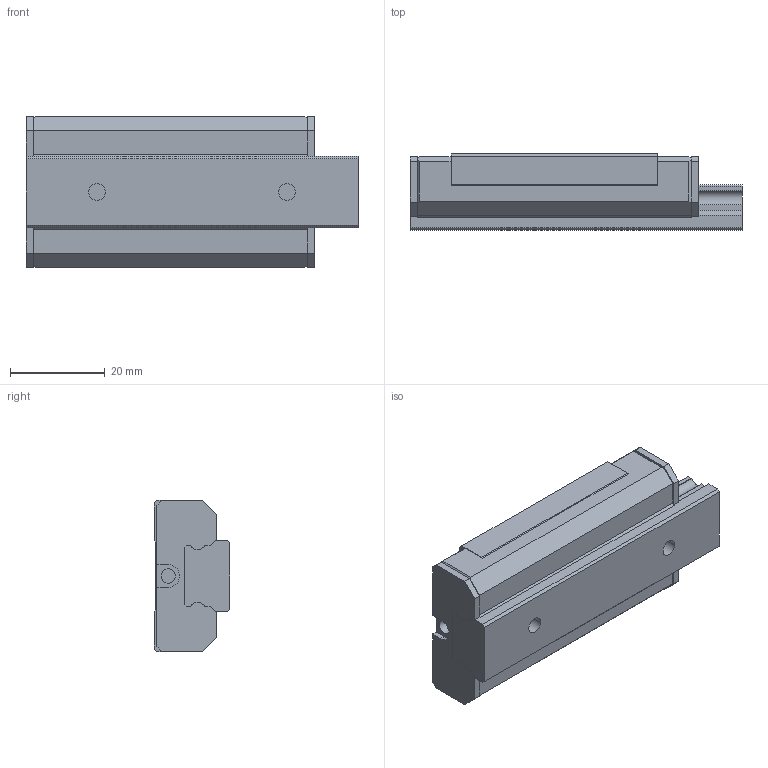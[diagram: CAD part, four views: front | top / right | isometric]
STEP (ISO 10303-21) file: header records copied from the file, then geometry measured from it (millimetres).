
FILE_DESCRIPTION(/* description */ ('STEP AP203'),/* implementation_level */ '2;1');
FILE_NAME(/* name */ 'SRS15NSS-70LM_G15_0_Without_grease_nipple_0_0_0_0_1',/* time_stamp */ '2024-05-17T09:13:22+02:00',/* author */ ('License CC BY-ND 4.0'),/* organization */ ('CADENAS'),/* preprocessor_version */ 'ST-DEVELOPER v19.3',/* originating_system */ 'PARTsolutions',/* authorisation */ ' ');
FILE_SCHEMA (('CONFIG_CONTROL_DESIGN'));
Length unit declared in the file: millimetre
Products named in the file (3): SRS15NSS-70LM_G15_0_Without_grease_nipple_0_0_0_0_1; SRS15N7015 Track; SRS15NSS1 Slider
Assembly tree (2 placements, depth 2):
  SRS15NSS-70LM_G15_0_Without_grease_nipple_0_0_0_0_1
    SRS15N7015 Track
    SRS15NSS1 Slider
Bounding box: 70 x 16 x 32 mm (x, y, z)
Volume: 27369.1 mm3; surface area: 10774.4 mm2
Topology: 2 solids, 2 shells, 134 faces, 358 edges, 232 vertices
Faces by surface type: plane 100, cylinder 26, cone 8
Full cylindrical faces by diameter (mm): 2.459 x4, 3 x2, 3.5 x2, 6 x2
Entity records: 4055 total; most frequent: CARTESIAN_POINT 697, ORIENTED_EDGE 664, DIRECTION 662, EDGE_CURVE 332, LINE 276, VECTOR 276, VERTEX_POINT 228, AXIS2_PLACEMENT_3D 193
